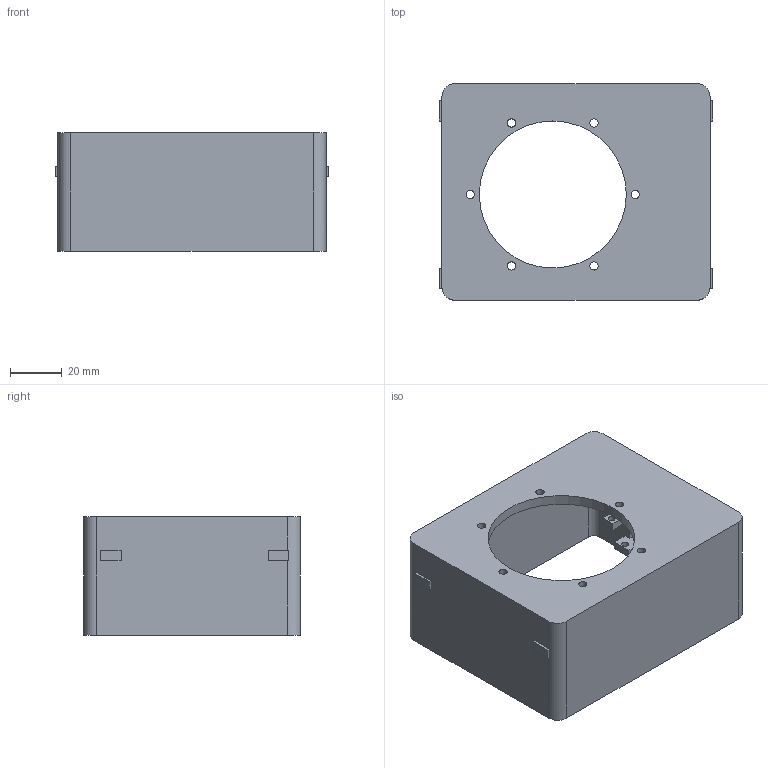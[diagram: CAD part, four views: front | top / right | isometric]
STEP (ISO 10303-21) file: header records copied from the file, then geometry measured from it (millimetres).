
FILE_DESCRIPTION(('Open CASCADE Model'),'2;1');
FILE_NAME('Open CASCADE Shape Model','2026-11-05T02:23:55',('Author'),( 'Open CASCADE'),'Open CASCADE STEP processor 7.8','Open CASCADE 7.8' ,'Unknown');
FILE_SCHEMA(('AUTOMOTIVE_DESIGN { 1 0 10303 214 1 1 1 1 }'));
Length unit declared in the file: millimetre
Products named in the file (1): Open CASCADE STEP translator 7.8 6
Bounding box: 106 x 84 x 46 mm (x, y, z)
Volume: 82012.7 mm3; surface area: 44613 mm2
Topology: 1 solids, 1 shells, 112 faces, 309 edges, 206 vertices
Faces by surface type: plane 87, cylinder 25
Full cylindrical faces by diameter (mm): 2.7 x10, 3.2 x6, 57 x1
Entity records: 7720 total; most frequent: CARTESIAN_POINT 1378, DIRECTION 1193, LINE 803, VECTOR 803, ORIENTED_EDGE 618, PCURVE 618, DEFINITIONAL_REPRESENTATION 618, EDGE_CURVE 309
